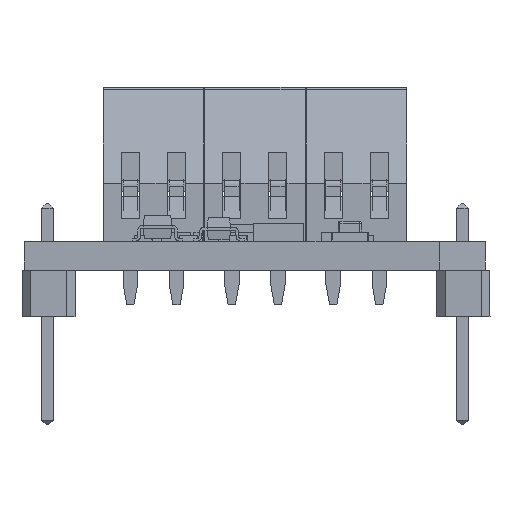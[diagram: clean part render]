
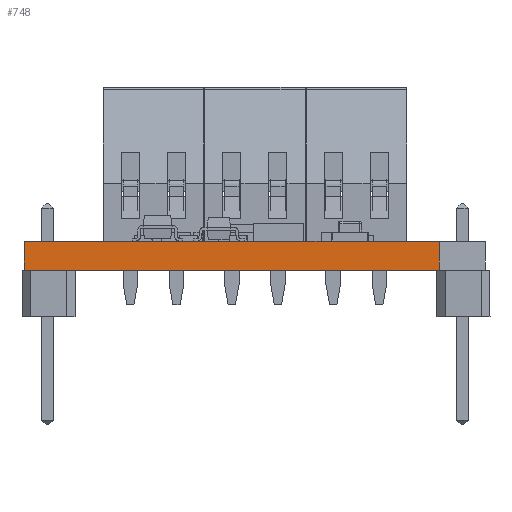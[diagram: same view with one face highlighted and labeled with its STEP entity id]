
A CAD part, front view. The second image highlights one B-rep face of the part: STEP entity #748.
In plain terms, the highlighted planar face has unit normal (0, -1, 0).
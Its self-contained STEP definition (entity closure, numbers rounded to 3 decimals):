
#723 = VERTEX_POINT('',#724);
#724 = CARTESIAN_POINT('',(21.59,-3.81,0.));
#730 = EDGE_CURVE('',#731,#723,#733,.T.);
#731 = VERTEX_POINT('',#732);
#732 = CARTESIAN_POINT('',(21.59,-3.81,-1.59));
#733 = LINE('',#734,#735);
#734 = CARTESIAN_POINT('',(21.59,-3.81,-1.59));
#735 = VECTOR('',#736,1.);
#736 = DIRECTION('',(0.,0.,1.));
#748 = ADVANCED_FACE('',(#749),#774,.T.);
#749 = FACE_BOUND('',#750,.T.);
#750 = EDGE_LOOP('',(#751,#752,#760,#768));
#751 = ORIENTED_EDGE('',*,*,#730,.T.);
#752 = ORIENTED_EDGE('',*,*,#753,.T.);
#753 = EDGE_CURVE('',#723,#754,#756,.T.);
#754 = VERTEX_POINT('',#755);
#755 = CARTESIAN_POINT('',(-1.27,-3.81,0.));
#756 = LINE('',#757,#758);
#757 = CARTESIAN_POINT('',(21.59,-3.81,0.));
#758 = VECTOR('',#759,1.);
#759 = DIRECTION('',(-1.,0.,0.));
#760 = ORIENTED_EDGE('',*,*,#761,.F.);
#761 = EDGE_CURVE('',#762,#754,#764,.T.);
#762 = VERTEX_POINT('',#763);
#763 = CARTESIAN_POINT('',(-1.27,-3.81,-1.59));
#764 = LINE('',#765,#766);
#765 = CARTESIAN_POINT('',(-1.27,-3.81,-1.59));
#766 = VECTOR('',#767,1.);
#767 = DIRECTION('',(0.,0.,1.));
#768 = ORIENTED_EDGE('',*,*,#769,.F.);
#769 = EDGE_CURVE('',#731,#762,#770,.T.);
#770 = LINE('',#771,#772);
#771 = CARTESIAN_POINT('',(21.59,-3.81,-1.59));
#772 = VECTOR('',#773,1.);
#773 = DIRECTION('',(-1.,0.,0.));
#774 = PLANE('',#775);
#775 = AXIS2_PLACEMENT_3D('',#776,#777,#778);
#776 = CARTESIAN_POINT('',(21.59,-3.81,-1.59));
#777 = DIRECTION('',(0.,-1.,0.));
#778 = DIRECTION('',(-1.,0.,0.));
